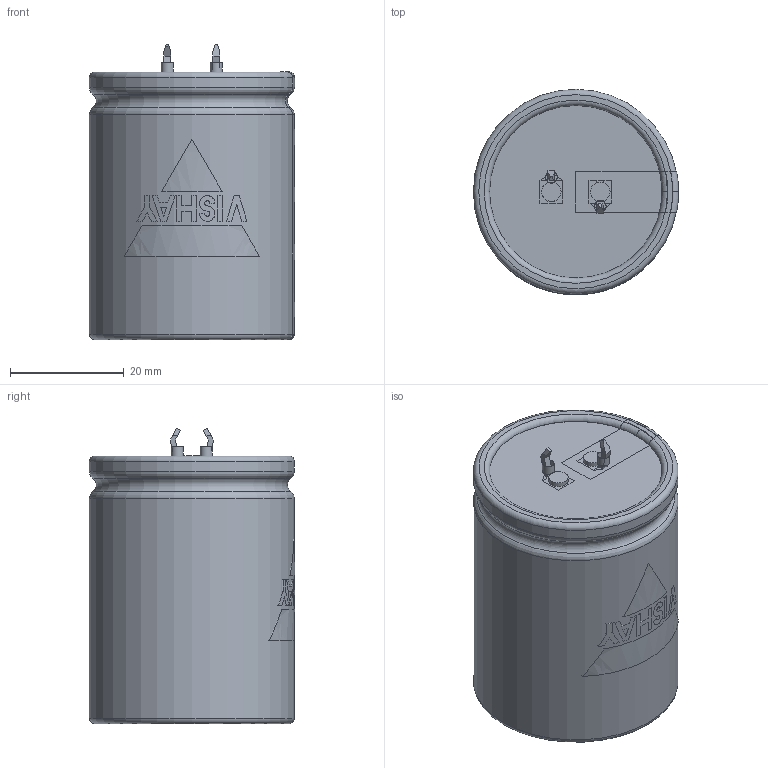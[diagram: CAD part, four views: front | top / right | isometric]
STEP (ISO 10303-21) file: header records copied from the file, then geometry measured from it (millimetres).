
FILE_DESCRIPTION(('FreeCAD Model'),'2;1');
FILE_NAME( 'C:/Users/Gebruiker/Documents/FreeCAD/SnapIn_35x45_2pin_4.0.step', '2020-11-12T20:40:21',('Author'),(''), 'Open CASCADE STEP processor 6.8','FreeCAD','Unknown');
FILE_SCHEMA(('AUTOMOTIVE_DESIGN_CC2 { 1 2 10303 214 -1 1 5 4 }'));
Length unit declared in the file: millimetre
Products named in the file (9): ASSEMBLY; TerminalMin; TerminalPlus; PCBHoles; Disc; BottomInsulation; Can3D; InkMinusBar; InkLogo
Assembly tree (8 placements, depth 2):
  ASSEMBLY
    TerminalMin
    TerminalPlus
    PCBHoles
    Disc
    BottomInsulation
    Can3D
    InkMinusBar
    InkLogo
Bounding box: 36.05 x 36.05 x 51.95 mm (x, y, z)
Volume: 54568.1 mm3; surface area: 18019.5 mm2
Topology: 16 solids, 16 shells, 193 faces, 473 edges, 310 vertices
Faces by surface type: plane 146, cylinder 29, torus 18
Full cylindrical faces by diameter (mm): 2 x2, 2.1 x2, 3.4 x2, 28.8 x2, 30.3 x1, 36 x2
Entity records: 20323 total; most frequent: CARTESIAN_POINT 9715, DIRECTION 1653, ORIENTED_EDGE 946, PCURVE 946, DEFINITIONAL_REPRESENTATION 946, LINE 916, VECTOR 916, EDGE_CURVE 473
